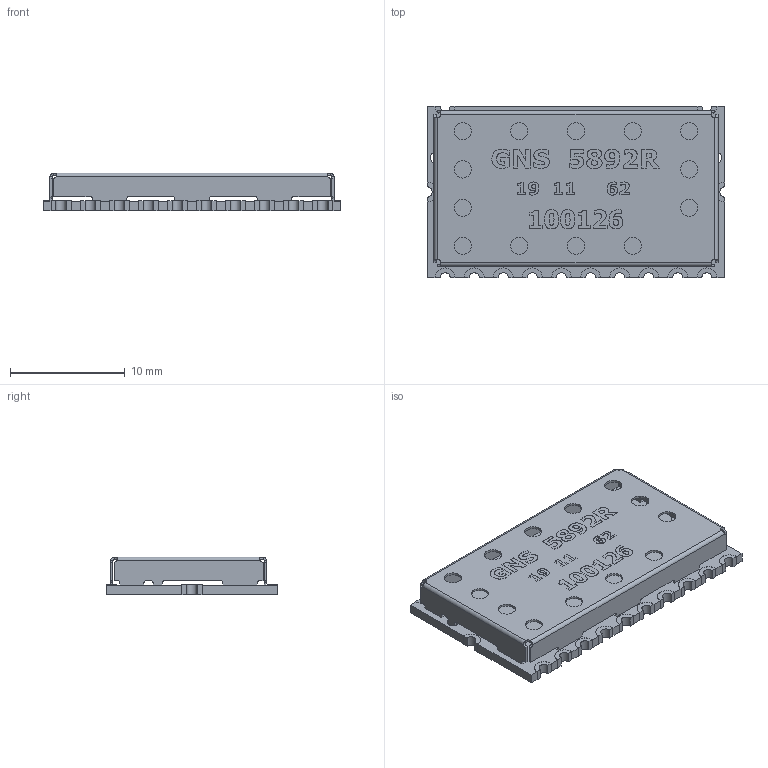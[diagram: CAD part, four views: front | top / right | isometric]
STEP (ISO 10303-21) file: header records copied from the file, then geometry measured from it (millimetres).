
FILE_DESCRIPTION(/* description */ (''),/* implementation_level */ '2;1');
FILE_NAME(/* name */ 'N:\CAD Dateien\Intern\ADSB\Export - STEP, STL & Co\STEP\5892R.stp',/* time_stamp */ '2019-03-18T15:14:53+01:00',/* author */ ('ODiegel'),/* organization */ (''),/* preprocessor_version */ 'ST-DEVELOPER v16.13',/* originating_system */ 'Autodesk Inventor 2018',/* authorisation */ '');
FILE_SCHEMA (('AUTOMOTIVE_DESIGN { 1 0 10303 214 3 1 1 }'));
Length unit declared in the file: millimetre
Products named in the file (2): 5892R; 5892R_V2.4V
Assembly tree (1 placements, depth 2):
  5892R
    5892R_V2.4V
Bounding box: 26 x 15 x 3.31 mm (x, y, z)
Volume: 407.5 mm3; surface area: 1788.4 mm2
Topology: 1 solids, 1 shells, 628 faces, 1755 edges, 1150 vertices
Faces by surface type: plane 329, bspline 212, cylinder 87
Full cylindrical faces by diameter (mm): 1 x2, 1.5 x13
Entity records: 21888 total; most frequent: CARTESIAN_POINT 6341, ORIENTED_EDGE 3480, DIRECTION 2312, EDGE_CURVE 1740, LINE 1158, VECTOR 1158, VERTEX_POINT 1150, EDGE_LOOP 712
